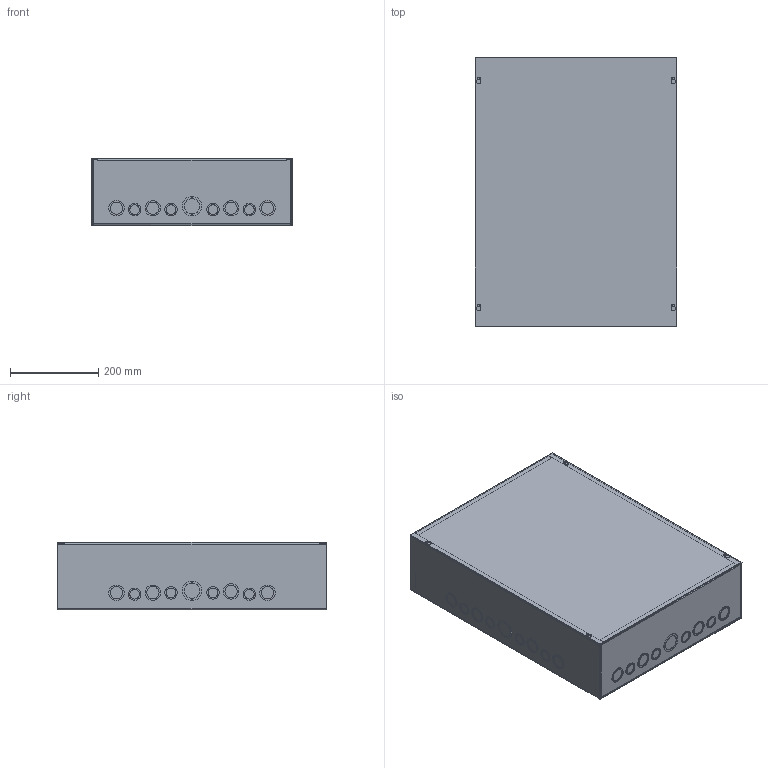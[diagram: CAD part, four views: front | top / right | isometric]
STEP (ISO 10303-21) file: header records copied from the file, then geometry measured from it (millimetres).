
FILE_DESCRIPTION (( 'STEP AP203' ), '1' );
FILE_NAME ('asg24x18x6.STEP', '2011-02-01T20:23:51', ( 'Hoffman User' ), ( 'Hoffman Enclosures' ), 'SwSTEP 2.0', 'SolidWorks 2009', '' );
FILE_SCHEMA (( 'CONFIG_CONTROL_DESIGN' ));
Length unit declared in the file: inch
Products named in the file (5): 89056821; 42304018; 89053800_WELDMENT; asg24x18x6; 43332006
Assembly tree (5 placements, depth 3):
  asg24x18x6
    89053800_WELDMENT
      43332006  x2
      89056821
    42304018
Bounding box: 458.79 x 611.19 x 153.8 mm (x, y, z)
Volume: 1284437.6 mm3; surface area: 1860939.5 mm2
Topology: 4 solids, 4 shells, 909 faces, 2162 edges, 1408 vertices
Faces by surface type: plane 539, cylinder 348, torus 10, bspline 8, cone 4
Entity records: 20975 total; most frequent: CARTESIAN_POINT 3874, DIRECTION 3576, ORIENTED_EDGE 3280, EDGE_CURVE 1640, AXIS2_PLACEMENT_3D 1252, VECTOR 1072, LINE 1072, VERTEX_POINT 1070
